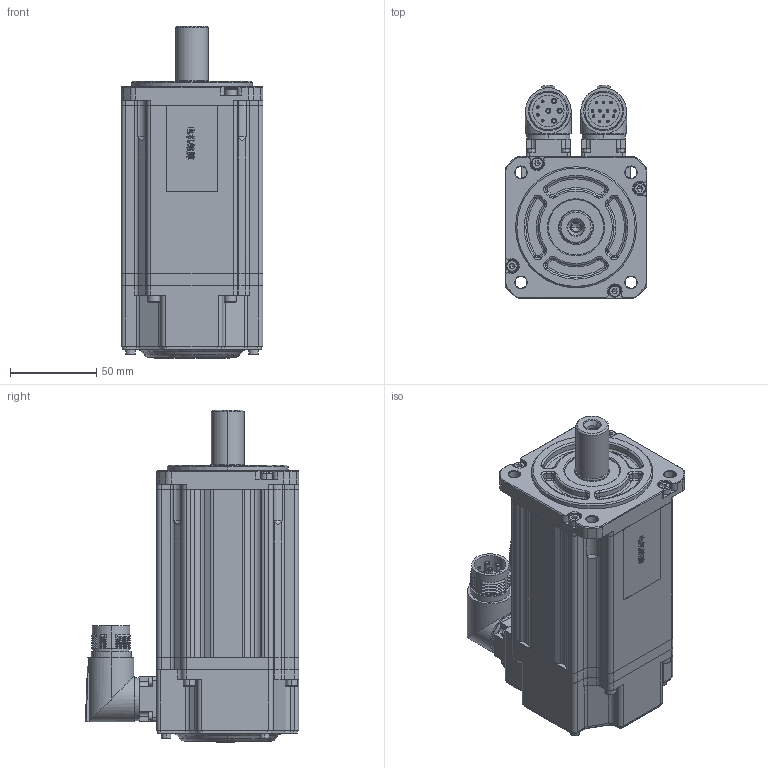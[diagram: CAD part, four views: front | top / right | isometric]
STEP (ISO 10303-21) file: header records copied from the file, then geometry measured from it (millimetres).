
FILE_DESCRIPTION (( 'STEP AP203' ), '1' );
FILE_NAME ('MC20-080-3L30-N751-1¡õPL-NNNN.STEP', '2025-09-19T07:41:18', ( '' ), ( '' ), 'SwSTEP 2.0', 'SolidWorks 2014', '' );
FILE_SCHEMA (( 'CONFIG_CONTROL_DESIGN' ));
Length unit declared in the file: millimetre
Products named in the file (1): MC20-080-3L30-N751-1¡õPL-NNNN
Bounding box: 82 x 123.35 x 192 mm (x, y, z)
Volume: 1039240.4 mm3; surface area: 151925 mm2
Topology: 27 solids, 27 shells, 2462 faces, 6054 edges, 3763 vertices
Faces by surface type: plane 1187, cylinder 540, cone 315, bspline 246, torus 174
Entity records: 80531 total; most frequent: CARTESIAN_POINT 23424, ORIENTED_EDGE 11960, DIRECTION 11509, EDGE_CURVE 5980, AXIS2_PLACEMENT_3D 4031, VERTEX_POINT 3763, VECTOR 3447, LINE 3447
